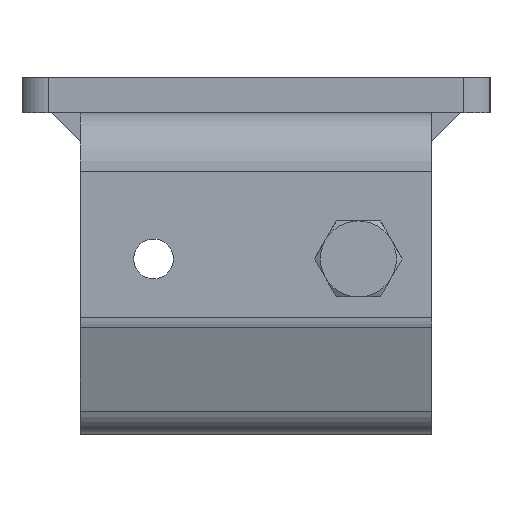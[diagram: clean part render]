
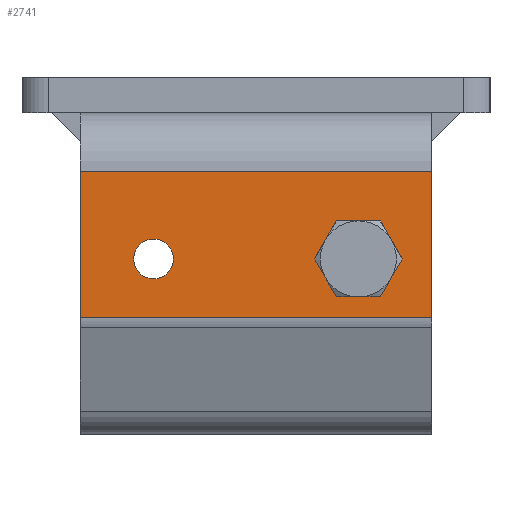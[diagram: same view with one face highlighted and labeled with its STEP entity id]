
A CAD part, left-side view. The second image highlights one B-rep face of the part: STEP entity #2741.
In plain terms, the highlighted planar face has unit normal (-1, 0, 0).
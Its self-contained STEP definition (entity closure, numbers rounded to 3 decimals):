
#85=FACE_BOUND('',#702,.T.);
#86=FACE_BOUND('',#703,.T.);
#277=CIRCLE('',#3003,3.4);
#279=CIRCLE('',#3006,3.324);
#480=FACE_OUTER_BOUND('',#701,.T.);
#701=EDGE_LOOP('',(#2307,#2308,#2309,#2310));
#702=EDGE_LOOP('',(#2311));
#703=EDGE_LOOP('',(#2312));
#885=LINE('',#4841,#1089);
#913=LINE('',#4932,#1117);
#916=LINE('',#4939,#1120);
#920=LINE('',#4952,#1124);
#1089=VECTOR('',#3570,60.);
#1117=VECTOR('',#3670,25.);
#1120=VECTOR('',#3677,60.);
#1124=VECTOR('',#3697,25.);
#1321=VERTEX_POINT('',#4826);
#1324=VERTEX_POINT('',#4834);
#1348=VERTEX_POINT('',#4923);
#1350=VERTEX_POINT('',#4928);
#1351=VERTEX_POINT('',#4931);
#1353=VERTEX_POINT('',#4938);
#1628=EDGE_CURVE('',#1324,#1321,#885,.T.);
#1667=EDGE_CURVE('',#1348,#1348,#277,.T.);
#1669=EDGE_CURVE('',#1350,#1350,#279,.T.);
#1670=EDGE_CURVE('',#1351,#1324,#913,.T.);
#1674=EDGE_CURVE('',#1353,#1351,#916,.T.);
#1681=EDGE_CURVE('',#1321,#1353,#920,.T.);
#2307=ORIENTED_EDGE('',*,*,#1628,.T.);
#2308=ORIENTED_EDGE('',*,*,#1681,.T.);
#2309=ORIENTED_EDGE('',*,*,#1674,.T.);
#2310=ORIENTED_EDGE('',*,*,#1670,.T.);
#2311=ORIENTED_EDGE('',*,*,#1669,.T.);
#2312=ORIENTED_EDGE('',*,*,#1667,.T.);
#2581=PLANE('',#3018);
#2741=ADVANCED_FACE('',(#480,#85,#86),#2581,.T.);
#3003=AXIS2_PLACEMENT_3D('',#4924,#3660,#3661);
#3006=AXIS2_PLACEMENT_3D('',#4929,#3666,#3667);
#3018=AXIS2_PLACEMENT_3D('',#4953,#3698,#3699);
#3570=DIRECTION('',(0.,1.,0.));
#3660=DIRECTION('center_axis',(1.,0.,0.));
#3661=DIRECTION('ref_axis',(0.,0.,
-1.));
#3666=DIRECTION('center_axis',(1.,0.,0.));
#3667=DIRECTION('ref_axis',(0.,0.,
1.));
#3670=DIRECTION('',(0.,0.,1.));
#3677=DIRECTION('',(0.,-1.,0.));
#3697=DIRECTION('',(0.,0.,-1.));
#3698=DIRECTION('center_axis',(-1.,0.,0.));
#3699=DIRECTION('ref_axis',(0.,0.,1.));
#4826=CARTESIAN_POINT('',(-30.,30.,-10.));
#4834=CARTESIAN_POINT('',(-30.,-30.,-10.));
#4841=CARTESIAN_POINT('',(-30.,15.,-10.));
#4923=CARTESIAN_POINT('',(-30.,17.5,-21.6));
#4924=CARTESIAN_POINT('Origin',(-30.,17.5,-25.));
#4928=CARTESIAN_POINT('',(-30.,-17.5,-21.676));
#4929=CARTESIAN_POINT('Origin',(-30.,-17.5,-25.));
#4931=CARTESIAN_POINT('',(-30.,-30.,-35.));
#4932=CARTESIAN_POINT('',(-30.,-30.,-59.679));
#4938=CARTESIAN_POINT('',(-30.,30.,-35.));
#4939=CARTESIAN_POINT('',(-30.,-15.,-35.));
#4952=CARTESIAN_POINT('',(-30.,30.,103.68));
#4953=CARTESIAN_POINT('Origin',(-30.,0.,87.));
